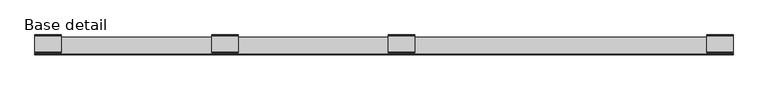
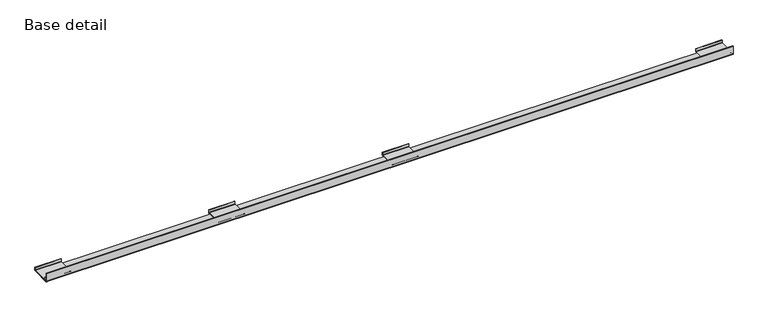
"""IFC4 building model written with IfcOpenShell, lengths in millimetres: beam geometry, TI-H-AI1_1_Base detail_BEAM : Base detail."""

from ifc_helpers import new_model, si_unit, point, frame, frame_2d, origin, place, context, project, spatial, polyline, circle_curve, trimmed, segment, composite_curve, outline, extrude, source, transform, mapped, element, save


def base_detail_667776c5(model_context):
    return source(origin(), model_context, "Body", "SweptSolid", [
        extrude(outline(composite_curve([segment(polyline([(-12.0, 18.0), (-12.0, 4.0)]), True, "CONTINUOUS"), segment(trimmed(circle_curve(frame_2d((-16.0, 4.0)), 4.0), [point((-12.0, 4.0))], [point((-16.0, 0.0))], False, "CARTESIAN"), True, "CONTINUOUS"), segment(polyline([(-16.0, 0.0), (-108.0, 0.0)]), True, "CONTINUOUS"), segment(trimmed(circle_curve(frame_2d((-108.0, 4.0)), 4.0), [point((-108.0, 0.0))], [point((-112.0, 4.0))], False, "CARTESIAN"), True, "CONTINUOUS"), segment(polyline([(-112.0, 4.0), (-112.0, 18.0), (-110.0, 18.0), (-110.0, 4.0)]), True, "CONTINUOUS"), segment(trimmed(circle_curve(frame_2d((-108.0, 4.0)), 2.0), [point((-110.0, 4.0))], [point((-108.0, 2.0))], True, "CARTESIAN"), True, "CONTINUOUS"), segment(polyline([(-108.0, 2.0), (-16.0, 2.0)]), True, "CONTINUOUS"), segment(trimmed(circle_curve(frame_2d((-16.0, 4.0)), 2.0), [point((-16.0, 2.0))], [point((-14.0, 4.0))], True, "CARTESIAN"), True, "CONTINUOUS"), segment(polyline([(-14.0, 4.0), (-14.0, 18.0), (-12.0, 18.0)]), True, "CONTINUOUS")], self_intersect=False)), frame((29.0293944, 0.0, 0.0), z_axis=(1.0, 0.0, 0.0), x_axis=(0.0, 1.0, 0.0)), (0.0, 0.0, 1.0), 150.0),
        extrude(outline(composite_curve([segment(polyline([(-12.0, 18.0), (-12.0, 4.0)]), True, "CONTINUOUS"), segment(trimmed(circle_curve(frame_2d((-16.0, 4.0)), 4.0), [point((-12.0, 4.0))], [point((-16.0, 0.0))], False, "CARTESIAN"), True, "CONTINUOUS"), segment(polyline([(-16.0, 0.0), (-108.0, 0.0)]), True, "CONTINUOUS"), segment(trimmed(circle_curve(frame_2d((-108.0, 4.0)), 4.0), [point((-108.0, 0.0))], [point((-112.0, 4.0))], False, "CARTESIAN"), True, "CONTINUOUS"), segment(polyline([(-112.0, 4.0), (-112.0, 18.0), (-110.0, 18.0), (-110.0, 4.0)]), True, "CONTINUOUS"), segment(trimmed(circle_curve(frame_2d((-108.0, 4.0)), 2.0), [point((-110.0, 4.0))], [point((-108.0, 2.0))], True, "CARTESIAN"), True, "CONTINUOUS"), segment(polyline([(-108.0, 2.0), (-16.0, 2.0)]), True, "CONTINUOUS"), segment(trimmed(circle_curve(frame_2d((-16.0, 4.0)), 2.0), [point((-16.0, 2.0))], [point((-14.0, 4.0))], True, "CARTESIAN"), True, "CONTINUOUS"), segment(polyline([(-14.0, 4.0), (-14.0, 18.0), (-12.0, 18.0)]), True, "CONTINUOUS")], self_intersect=False)), frame((1832.2999994, 0.0, 0.0), z_axis=(1.0, 0.0, 0.0), x_axis=(0.0, 1.0, 0.0)), (0.0, 0.0, 1.0), 150.0),
        extrude(outline(composite_curve([segment(polyline([(-12.0, 18.0), (-12.0, 4.0)]), True, "CONTINUOUS"), segment(trimmed(circle_curve(frame_2d((-16.0, 4.0)), 4.0), [point((-12.0, 4.0))], [point((-16.0, 0.0))], False, "CARTESIAN"), True, "CONTINUOUS"), segment(polyline([(-16.0, 0.0), (-108.0, 0.0)]), True, "CONTINUOUS"), segment(trimmed(circle_curve(frame_2d((-108.0, 4.0)), 4.0), [point((-108.0, 0.0))], [point((-112.0, 4.0))], False, "CARTESIAN"), True, "CONTINUOUS"), segment(polyline([(-112.0, 4.0), (-112.0, 18.0), (-110.0, 18.0), (-110.0, 4.0)]), True, "CONTINUOUS"), segment(trimmed(circle_curve(frame_2d((-108.0, 4.0)), 2.0), [point((-110.0, 4.0))], [point((-108.0, 2.0))], True, "CARTESIAN"), True, "CONTINUOUS"), segment(polyline([(-108.0, 2.0), (-16.0, 2.0)]), True, "CONTINUOUS"), segment(trimmed(circle_curve(frame_2d((-16.0, 4.0)), 2.0), [point((-16.0, 2.0))], [point((-14.0, 4.0))], True, "CARTESIAN"), True, "CONTINUOUS"), segment(polyline([(-14.0, 4.0), (-14.0, 18.0), (-12.0, 18.0)]), True, "CONTINUOUS")], self_intersect=False)), frame((-970.9706056, 0.0, 0.0), z_axis=(1.0, 0.0, 0.0), x_axis=(0.0, 1.0, 0.0)), (0.0, 0.0, 1.0), 150.0),
        extrude(outline(composite_curve([segment(polyline([(-12.0, 18.0), (-12.0, 4.0)]), True, "CONTINUOUS"), segment(trimmed(circle_curve(frame_2d((-16.0, 4.0)), 4.0), [point((-12.0, 4.0))], [point((-16.0, 0.0))], False, "CARTESIAN"), True, "CONTINUOUS"), segment(polyline([(-16.0, 0.0), (-108.0, 0.0)]), True, "CONTINUOUS"), segment(trimmed(circle_curve(frame_2d((-108.0, 4.0)), 4.0), [point((-108.0, 0.0))], [point((-112.0, 4.0))], False, "CARTESIAN"), True, "CONTINUOUS"), segment(polyline([(-112.0, 4.0), (-112.0, 18.0), (-110.0, 18.0), (-110.0, 4.0)]), True, "CONTINUOUS"), segment(trimmed(circle_curve(frame_2d((-108.0, 4.0)), 2.0), [point((-110.0, 4.0))], [point((-108.0, 2.0))], True, "CARTESIAN"), True, "CONTINUOUS"), segment(polyline([(-108.0, 2.0), (-16.0, 2.0)]), True, "CONTINUOUS"), segment(trimmed(circle_curve(frame_2d((-16.0, 4.0)), 2.0), [point((-16.0, 2.0))], [point((-14.0, 4.0))], True, "CARTESIAN"), True, "CONTINUOUS"), segment(polyline([(-14.0, 4.0), (-14.0, 18.0), (-12.0, 18.0)]), True, "CONTINUOUS")], self_intersect=False)), frame((-1970.9706056, 0.0, 0.0), z_axis=(1.0, 0.0, 0.0), x_axis=(0.0, 1.0, 0.0)), (0.0, 0.0, 1.0), 150.0),
        extrude(outline(composite_curve([segment(trimmed(circle_curve(frame_2d((-121.5, 1.5)), 3.0), [point((-121.5, -1.5))], [point((-124.5, 1.5))], False, "CARTESIAN"), True, "CONTINUOUS"), segment(polyline([(-124.5, 1.5), (-124.5, 48.5), (-123.0, 48.5), (-123.0, 1.5)]), True, "CONTINUOUS"), segment(trimmed(circle_curve(frame_2d((-121.5, 1.5)), 1.5), [point((-123.0, 1.5))], [point((-121.5, 0.0))], True, "CARTESIAN"), True, "CONTINUOUS"), segment(polyline([(-121.5, 0.0), (-24.5, 0.0), (-24.5, -1.5), (-121.5, -1.5)]), True, "CONTINUOUS")], self_intersect=False)), frame((-1970.9706056, 0.0, 0.0), z_axis=(1.0, 0.0, 0.0), x_axis=(0.0, 1.0, 0.0)), (0.0, 0.0, 1.0), 3953.270605),
    ])


if __name__ == "__main__":
    model = new_model("IFC4")
    model_context = context("Model", 3, world=origin())
    ifc_project = project(units=[si_unit("LENGTHUNIT", "METRE", prefix="MILLI")], contexts=[model_context])
    site = spatial("IfcSite", under=ifc_project)
    building = spatial("IfcBuilding", under=site)
    placement = place(None, origin())
    base_detail_shape = base_detail_667776c5(model_context)
    element("IfcBeam", 1, ObjectType="TI-H-AI1_1_Base detail_BEAM : Base detail", at=placement, inside=building, context=model_context, shape_type="MappedRepresentation", body=[
        mapped(base_detail_shape, transform((0.0, 0.0, 0.0), x_axis=(1.0, 0.0, 0.0), y_axis=(0.0, 1.0, 0.0), z_axis=(0.0, 0.0, 1.0))),
    ])
    save(model, "model.ifc")
